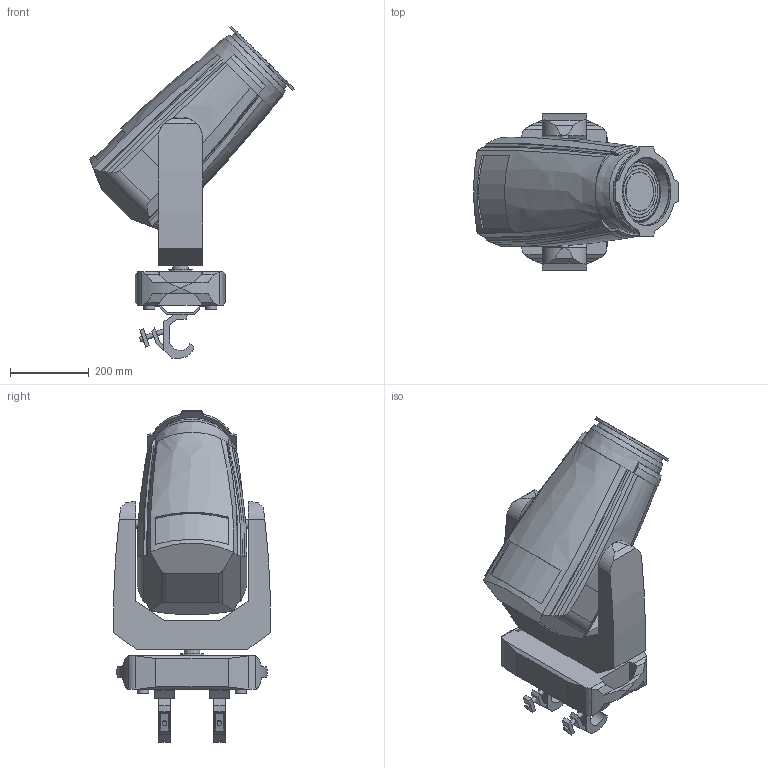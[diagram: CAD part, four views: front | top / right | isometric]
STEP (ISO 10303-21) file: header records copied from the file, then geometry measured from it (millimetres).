
FILE_DESCRIPTION(/* description */ ('Unknown'),/* implementation_level */ '2;1');
FILE_NAME(/* name */ '3D-T1 PC_Fresnel',/* time_stamp */ '2019-07-17T14:57:05+02:00',/* author */ ('Ing.Rostislav HĂˇba'),/* organization */ ('ROBE lighting'),/* preprocessor_version */ 'ST-DEVELOPER v16.7',/* originating_system */ 'DEX',/* authorisation */ $);
FILE_SCHEMA (('CONFIG_CONTROL_DESIGN'));
Length unit declared in the file: millimetre
Products named in the file (7): 3D-T1 PC_Fresnel; MP_base; T1-Arm; T1_PC_Fresnel-Head; Omega_SlimClamp; Omega+SlimClamp; Clamp Doughty Slimline QT
Assembly tree (7 placements, depth 3):
  3D-T1 PC_Fresnel
    MP_base
    T1-Arm
    T1_PC_Fresnel-Head
    Omega_SlimClamp  x2
      Omega+SlimClamp
      Clamp Doughty Slimline QT
Bounding box: 521.1 x 399.48 x 845.76 mm (x, y, z)
Volume: 39549263.4 mm3; surface area: 1284732.3 mm2
Topology: 7 solids, 7 shells, 310 faces, 824 edges, 548 vertices
Faces by surface type: plane 200, cylinder 68, bspline 26, cone 15, torus 1
Full cylindrical faces by diameter (mm): 11 x8, 12 x8, 13 x2, 22 x1, 22.229 x1, 28 x4, 40 x1, 60 x1, 152.612 x1, 174 x1
Entity records: 9035 total; most frequent: CARTESIAN_POINT 2690, ORIENTED_EDGE 1292, DIRECTION 1196, EDGE_CURVE 646, VERTEX_POINT 444, AXIS2_PLACEMENT_3D 420, LINE 356, VECTOR 356
